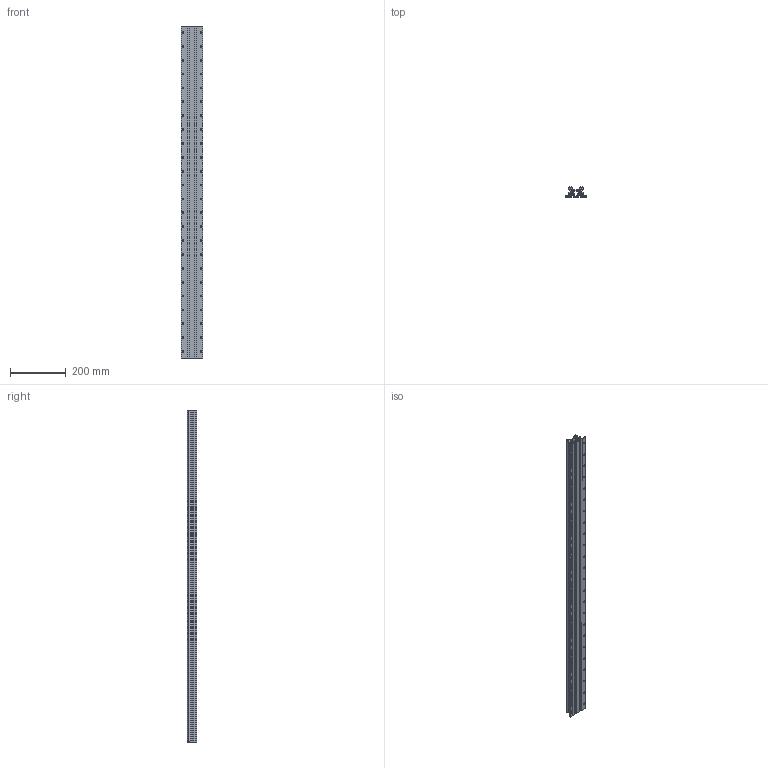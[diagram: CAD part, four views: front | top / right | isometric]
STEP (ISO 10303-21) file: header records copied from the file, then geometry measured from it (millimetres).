
FILE_DESCRIPTION (( 'STEP AP203' ), '1' );
FILE_NAME ('LFS-8-7_-_L=1196.step', '2006-12-18T13:27:04', ( ' ' ), ( ' ' ), 'SwSTEP 2.0', 'SolidWorks 2006089', '' );
FILE_SCHEMA (( 'CONFIG_CONTROL_DESIGN' ));
Length unit declared in the file: millimetre
Products named in the file (1): LFS-8-7_-_L=1196
Bounding box: 78 x 36 x 1196 mm (x, y, z)
Volume: 1034771.4 mm3; surface area: 665767 mm2
Topology: 3 solids, 3 shells, 367 faces, 1131 edges, 722 vertices
Faces by surface type: plane 215, cylinder 152
Entity records: 12798 total; most frequent: CARTESIAN_POINT 2797, ORIENTED_EDGE 2262, DIRECTION 1979, EDGE_CURVE 1131, VERTEX_POINT 722, AXIS2_PLACEMENT_3D 672, VECTOR 635, LINE 635
